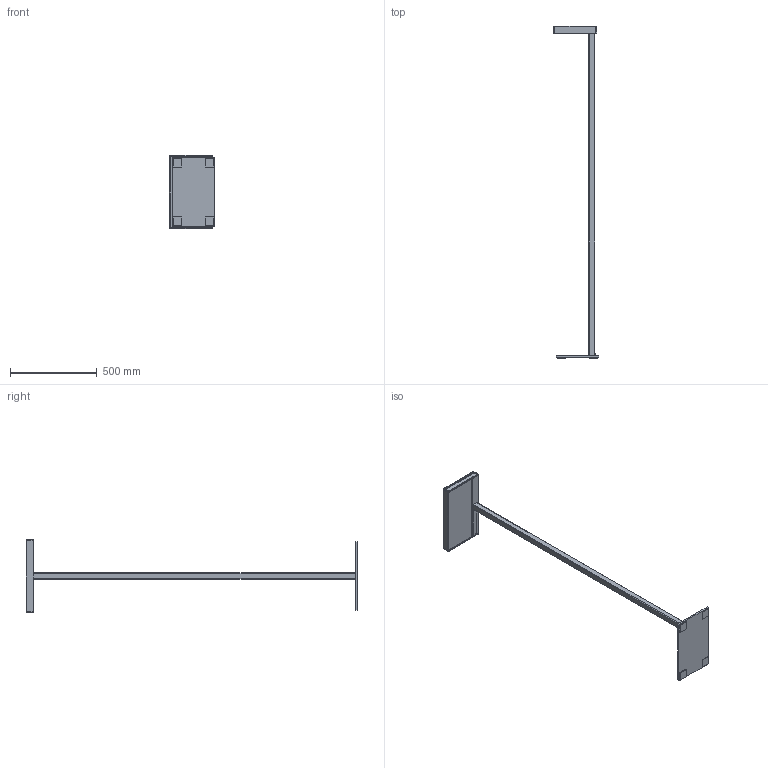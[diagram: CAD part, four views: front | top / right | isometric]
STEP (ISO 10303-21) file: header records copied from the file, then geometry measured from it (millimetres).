
FILE_DESCRIPTION(/* description */ (''),/* implementation_level */ '2;1');
FILE_NAME(/* name */ 'DUMMY_gottardo_H_Version-190319.stp',/* time_stamp */ '2019-03-19T08:36:15+01:00',/* author */ (''),/* organization */ (''),/* preprocessor_version */ 'ST-DEVELOPER v11',/* originating_system */ 'SIEMENS UGS NX 6.0',/* authorisation */ '');
FILE_SCHEMA (('CONFIG_CONTROL_DESIGN'));
Length unit declared in the file: millimetre
Products named in the file (1): DUMMY_gottardo_H_Version-190319
Bounding box: 261 x 1917.27 x 424 mm (x, y, z)
Volume: 7381812 mm3; surface area: 778277.5 mm2
Topology: 1 solids, 1 shells, 740 faces, 2070 edges, 1313 vertices
Faces by surface type: plane 346, cylinder 281, bspline 89, cone 12, sphere 8, torus 4
Entity records: 25499 total; most frequent: CARTESIAN_POINT 6454, ORIENTED_EDGE 4124, DIRECTION 3899, EDGE_CURVE 2062, AXIS2_PLACEMENT_3D 1345, VERTEX_POINT 1313, LINE 1209, VECTOR 1209
